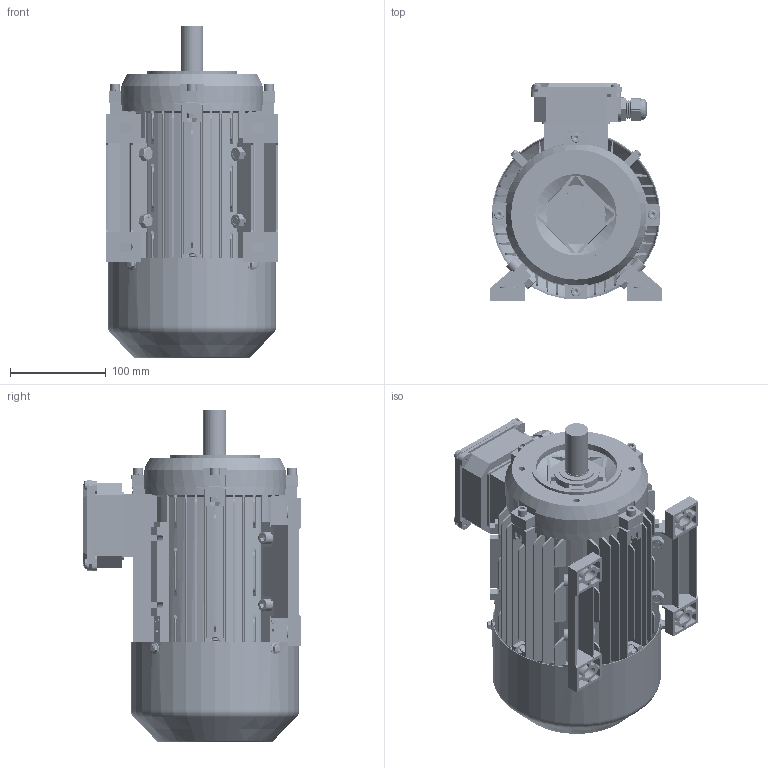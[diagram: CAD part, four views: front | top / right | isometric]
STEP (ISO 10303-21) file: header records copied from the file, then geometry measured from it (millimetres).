
FILE_DESCRIPTION (( 'STEP AP203' ), '1' );
FILE_NAME ('ME3-90LB34 3D.STEP', '2024-06-06T08:52:27', ( 'User' ), ( 'China' ), 'SwSTEP 2.0', 'SolidWorks 2018', '' );
FILE_SCHEMA (( 'CONFIG_CONTROL_DESIGN' ));
Length unit declared in the file: millimetre
Products named in the file (22): 蚐猾37X25X7; hex nuts, style 2-grades ab gb_GB_HEXAGON_TYPE13 M6 Normal Style-C; deep groove ball bearings gb_Rolling bearings 6205 GB 276-94; 8.013.09013 ME2 90B14瑞盖; 8.306.09004ME2-90瑞欶; 8.200.09005ME2L 蛌粣; spring lock washers--normal type gb_GB_FASTENER_WASHER_SW 6; hex flange bolts-heavy grade b gb_GB_FASTENER_BOLT_HFBB M5X10-C; 8.046.09005ME2 90L 菁褐; ME3-90LB34  3D; cross recessed pan head screws gb_GB_CROSS_SCREWS_TYPE1 M5X8-8  H type-S; MS63-71諉盄碟菁釱; MS63-71諉盄碟裔; 蹟杶郋M20X1.5; hexagon socket head cap screws gb_GB_FASTENER_SCREWS_HSHCS M8X25-S; 蹟簸M20X1.5; wave single coil spring lock washers gb_GB_FASTENER_WASHER_WSLW 8; 黑芛20X1.5; 8.034.09005ME2-90L儂褲; hex nuts, style 2-grades ab gb_GB_HEXAGON_TYPE13 M8 Normal Style-C; hexagon socket head cap screws gb_GB_FASTENER_SCREWS_HSHCS M6X30-S; 8.014.09012加长后盖（铁）
Assembly tree (58 placements, depth 2):
  ME3-90LB34  3D
    8.034.09005ME2-90L儂褲
    8.014.09012加长后盖（铁）
    deep groove ball bearings gb_Rolling bearings 6205 GB 276-94  x2
    8.200.09005ME2L 蛌粣
    8.046.09005ME2 90L 菁褐  x2
    MS63-71諉盄碟菁釱
    蹟杶郋M20X1.5
    蹟簸M20X1.5
    黑芛20X1.5
    hexagon socket head cap screws gb_GB_FASTENER_SCREWS_HSHCS M6X30-S  x8
    hex nuts, style 2-grades ab gb_GB_HEXAGON_TYPE13 M6 Normal Style-C  x7
    8.306.09004ME2-90瑞欶
    hex flange bolts-heavy grade b gb_GB_FASTENER_BOLT_HFBB M5X10-C  x4
    cross recessed pan head screws gb_GB_CROSS_SCREWS_TYPE1 M5X8-8  H type-S  x8
    MS63-71諉盄碟裔
    hexagon socket head cap screws gb_GB_FASTENER_SCREWS_HSHCS M8X25-S  x4
    wave single coil spring lock washers gb_GB_FASTENER_WASHER_WSLW 8  x4
    hex nuts, style 2-grades ab gb_GB_HEXAGON_TYPE13 M8 Normal Style-C  x4
    蚐猾37X25X7
    8.013.09013 ME2 90B14瑞盖
    spring lock washers--normal type gb_GB_FASTENER_WASHER_SW 6  x4
Bounding box: 180.36 x 228 x 347.62 mm (x, y, z)
Volume: 1331285.8 mm3; surface area: 894636.1 mm2
Topology: 67 solids, 67 shells, 7992 faces, 19590 edges, 11666 vertices
Faces by surface type: cone 2765, plane 2717, cylinder 2100, bspline 170, torus 160, sphere 80
Entity records: 144139 total; most frequent: CARTESIAN_POINT 45200, ORIENTED_EDGE 21104, DIRECTION 18435, EDGE_CURVE 10552, VERTEX_POINT 6773, LINE 6185, VECTOR 6185, AXIS2_PLACEMENT_3D 6125
